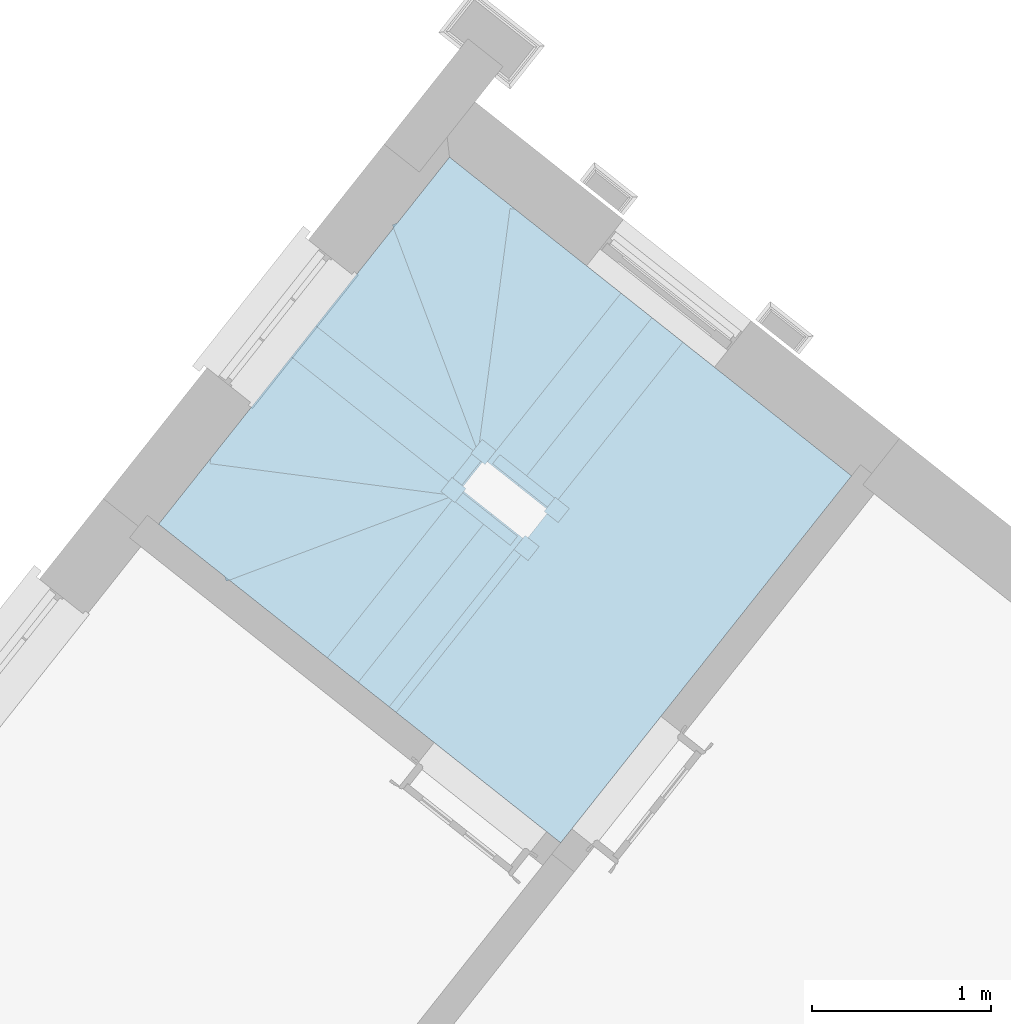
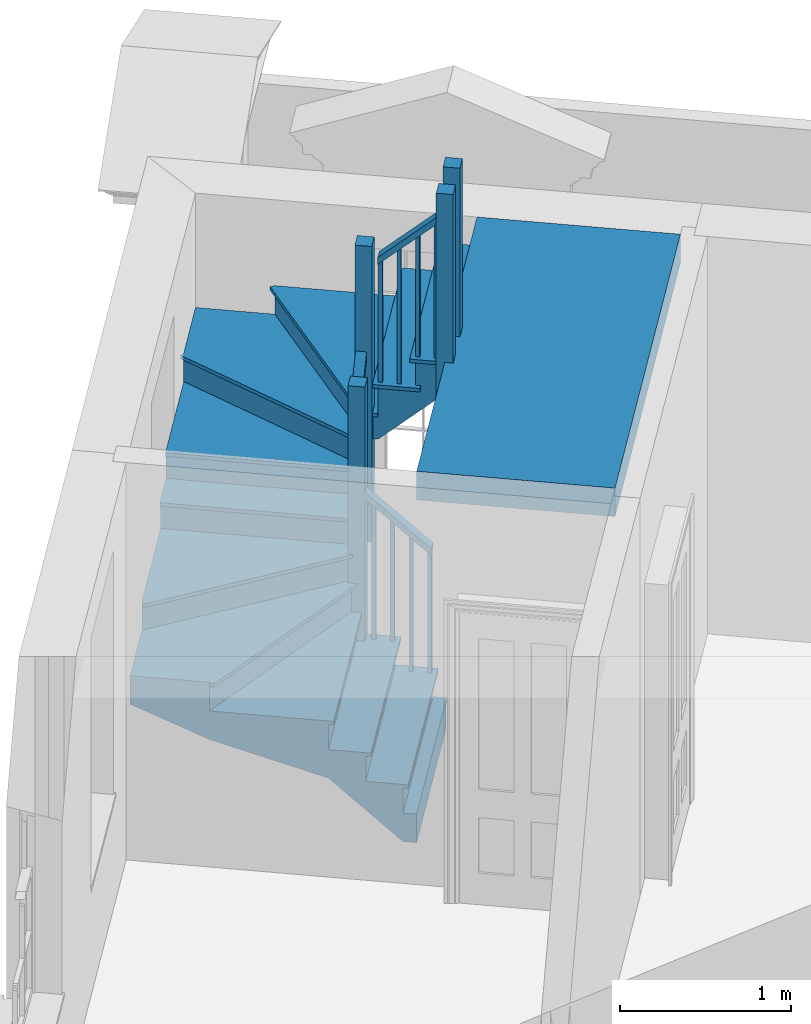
# One storey, part 8 of 8: 1 stair.
"""IFC4 building model written with IfcOpenShell, lengths in metres."""

from ifc_helpers import new_model, si_unit, frame, origin, origin_with_axes, place, context, subcontext, project, spatial, faceted_brep, element, save


model = new_model("IFC4")

# Units and contexts
model_context = context("Model", 3, world=origin_with_axes())
body_context = subcontext(model_context, "Body", "Model", "MODEL_VIEW")
ifc_project = project(units=[si_unit("PLANEANGLEUNIT", "RADIAN"), si_unit("MASSUNIT", "GRAM", prefix="KILO"), si_unit("FORCEUNIT", "NEWTON", prefix="KILO"), si_unit("LENGTHUNIT", "METRE"), si_unit("AREAUNIT", "SQUARE_METRE"), si_unit("VOLUMEUNIT", "CUBIC_METRE")], contexts=[model_context, model_context])

# Sites, building, storey
site_1_placement = place(None, origin_with_axes())
site_1 = spatial("IfcSite", under=ifc_project, at=site_1_placement, Name="Tamar")
site_2_placement = place(site_1_placement, origin_with_axes())
site_2 = spatial("IfcSite", under=site_1, at=site_2_placement, Name="Site plot-5", CompositionType="ELEMENT")
building_placement = place(None, origin_with_axes())
building = spatial("IfcBuilding", under=site_2, at=building_placement, Name="Building plot-5", CompositionType="ELEMENT")
storey_placement = place(None, frame((0.0, 0.0, 24.0), z_axis=(0.0, 0.0, 1.0), x_axis=(1.0, 0.0, 0.0)))
storey = spatial("IfcBuildingStorey", under=building, at=storey_placement, Name="plot-5 0", CompositionType="ELEMENT", Elevation=24.0)

# Stair
stair_placement = place(None, origin())
element("IfcStair", 1, at=stair_placement, inside=storey, Name="Stair", PredefinedType="NOTDEFINED", context=body_context, shape_type="Brep", body=[
    faceted_brep([(230.127307, 275.473376, 26.646429), (230.854102, 276.390256, 26.646429), (230.681697, 276.526919, 26.646429), (229.954902, 275.610039, 26.646429), (229.954902, 275.610039, 26.239286), (230.681697, 276.526919, 26.239286), (230.854102, 276.390256, 26.442857), (230.127307, 275.473376, 26.442857)], [[[0, 1, 2, 3]], [[4, 5, 6, 7]], [[7, 6, 1, 0]], [[1, 6, 5, 2]], [[5, 4, 3, 2]], [[3, 4, 7, 0]]]),
    faceted_brep([(230.658187, 276.545555, 26.621429), (230.658187, 276.545555, 26.646429), (230.681697, 276.526919, 26.621429), (230.877612, 276.371621, 26.646429), (230.877612, 276.371621, 26.621429), (230.854102, 276.390256, 26.621429), (230.681697, 276.526919, 26.646429), (230.854102, 276.390256, 26.646429), (229.912757, 275.605165, 26.646429), (229.954902, 275.610039, 26.646429), (229.954902, 275.610039, 26.621429), (229.912757, 275.605165, 26.621429), (230.132181, 275.431231, 26.646429), (230.127307, 275.473376, 26.646429), (230.127307, 275.473376, 26.621429), (230.132181, 275.431231, 26.621429)], [[[0, 1, 2]], [[3, 4, 5]], [[2, 1, 6]], [[3, 5, 7]], [[6, 1, 8, 9]], [[2, 6, 9, 10]], [[0, 2, 10, 11]], [[1, 0, 11, 8]], [[9, 8, 12, 13]], [[10, 9, 13, 14]], [[11, 10, 14, 15]], [[8, 11, 15, 12]], [[13, 12, 3, 7]], [[14, 13, 7, 5]], [[15, 14, 5, 4]], [[12, 15, 4, 3]]]),
    faceted_brep([(229.954902, 275.610039, 27.546429), (229.974494, 275.594509, 27.546429), (229.990023, 275.6141, 27.546429), (229.970432, 275.62963, 27.546429), (229.970432, 275.62963, 26.646429), (229.990023, 275.6141, 26.646429), (229.974494, 275.594509, 26.646429), (229.954902, 275.610039, 26.646429)], [[[0, 1, 2, 3]], [[4, 5, 6, 7]], [[7, 6, 1, 0]], [[6, 5, 2, 1]], [[5, 4, 3, 2]], [[4, 7, 0, 3]]]),
    faceted_brep([(230.041105, 275.541708, 27.648214), (230.060696, 275.526178, 27.648214), (230.076226, 275.545769, 27.648214), (230.056634, 275.561299, 27.648214), (230.056634, 275.561299, 26.646429), (230.076226, 275.545769, 26.646429), (230.060696, 275.526178, 26.646429), (230.041105, 275.541708, 26.646429)], [[[0, 1, 2, 3]], [[4, 5, 6, 7]], [[7, 6, 1, 0]], [[6, 5, 2, 1]], [[5, 4, 3, 2]], [[4, 7, 0, 3]]]),
    faceted_brep([(229.982856, 275.645303, 27.496429), (229.942478, 275.594366, 27.496429), (229.942478, 275.594366, 27.546429), (229.982856, 275.645303, 27.546429), (230.114883, 275.457703, 27.7), (230.155261, 275.508641, 27.7), (230.155261, 275.508641, 27.75), (230.114883, 275.457703, 27.75)], [[[0, 1, 2, 3]], [[4, 5, 6, 7]], [[0, 5, 4, 1]], [[3, 2, 7, 6]], [[0, 3, 6, 5]], [[2, 1, 4, 7]]]),
    faceted_brep([(229.954902, 275.610039, 26.442857), (230.681697, 276.526919, 26.442857), (230.509292, 276.663581, 26.442857), (229.782497, 275.746701, 26.442857), (229.782497, 275.746701, 26.035714), (230.509292, 276.663581, 26.035714), (230.681697, 276.526919, 26.239286), (229.954902, 275.610039, 26.239286)], [[[0, 1, 2, 3]], [[4, 5, 6, 7]], [[7, 6, 1, 0]], [[1, 6, 5, 2]], [[5, 4, 3, 2]], [[3, 4, 7, 0]]]),
    faceted_brep([(230.485783, 276.682217, 26.417857), (230.485783, 276.682217, 26.442857), (230.509292, 276.663581, 26.417857), (230.705207, 276.508283, 26.442857), (230.705207, 276.508283, 26.417857), (230.681697, 276.526919, 26.417857), (230.509292, 276.663581, 26.442857), (230.681697, 276.526919, 26.442857), (229.740352, 275.741827, 26.442857), (229.782497, 275.746701, 26.442857), (229.782497, 275.746701, 26.417857), (229.740352, 275.741827, 26.417857), (229.959776, 275.567893, 26.442857), (229.954902, 275.610039, 26.442857), (229.954902, 275.610039, 26.417857), (229.959776, 275.567893, 26.417857)], [[[0, 1, 2]], [[3, 4, 5]], [[2, 1, 6]], [[3, 5, 7]], [[6, 1, 8, 9]], [[2, 6, 9, 10]], [[0, 2, 10, 11]], [[1, 0, 11, 8]], [[9, 8, 12, 13]], [[10, 9, 13, 14]], [[11, 10, 14, 15]], [[8, 11, 15, 12]], [[13, 12, 3, 7]], [[14, 13, 7, 5]], [[15, 14, 5, 4]], [[12, 15, 4, 3]]]),
    faceted_brep([(229.782497, 275.746701, 27.342857), (229.802089, 275.731171, 27.342857), (229.817619, 275.750763, 27.342857), (229.798027, 275.766293, 27.342857), (229.798027, 275.766293, 26.442857), (229.817619, 275.750763, 26.442857), (229.802089, 275.731171, 26.442857), (229.782497, 275.746701, 26.442857)], [[[0, 1, 2, 3]], [[4, 5, 6, 7]], [[7, 6, 1, 0]], [[6, 5, 2, 1]], [[5, 4, 3, 2]], [[4, 7, 0, 3]]]),
    faceted_brep([(229.8687, 275.67837, 27.444643), (229.888291, 275.66284, 27.444643), (229.903821, 275.682432, 27.444643), (229.88423, 275.697961, 27.444643), (229.88423, 275.697961, 26.442857), (229.903821, 275.682432, 26.442857), (229.888291, 275.66284, 26.442857), (229.8687, 275.67837, 26.442857)], [[[0, 1, 2, 3]], [[4, 5, 6, 7]], [[7, 6, 1, 0]], [[6, 5, 2, 1]], [[5, 4, 3, 2]], [[4, 7, 0, 3]]]),
    faceted_brep([(229.810451, 275.781966, 27.292857), (229.770074, 275.731028, 27.292857), (229.770074, 275.731028, 27.342857), (229.810451, 275.781966, 27.342857), (229.942478, 275.594366, 27.496429), (229.982856, 275.645303, 27.496429), (229.982856, 275.645303, 27.546429), (229.942478, 275.594366, 27.546429)], [[[0, 1, 2, 3]], [[4, 5, 6, 7]], [[0, 5, 4, 1]], [[3, 2, 7, 6]], [[0, 3, 6, 5]], [[2, 1, 4, 7]]]),
    faceted_brep([(229.782497, 275.746701, 26.239286), (230.509292, 276.663581, 26.239286), (230.446352, 276.713473, 26.239286), (229.719557, 275.796593, 26.239286), (229.719557, 275.796593, 26.035714), (230.446352, 276.713473, 26.035714), (230.509292, 276.663581, 26.035714), (229.782497, 275.746701, 26.035714)], [[[0, 1, 2, 3]], [[4, 5, 6, 7]], [[7, 6, 1, 0]], [[6, 5, 2, 1]], [[5, 4, 3, 2]], [[4, 7, 0, 3]]]),
    faceted_brep([(229.700921, 275.773083, 26.214286), (229.700921, 275.773083, 26.239286), (229.719557, 275.796593, 26.214286), (229.763862, 275.723191, 26.239286), (229.763862, 275.723191, 26.214286), (229.782497, 275.746701, 26.214286), (229.719557, 275.796593, 26.239286), (229.782497, 275.746701, 26.239286)], [[[0, 1, 2]], [[3, 4, 5]], [[2, 1, 6]], [[3, 5, 7]], [[6, 1, 3, 7]], [[2, 6, 7, 5]], [[0, 2, 5, 4]], [[1, 0, 4, 3]]]),
    faceted_brep([(229.649314, 275.78847, 27.439286), (229.72768, 275.726351, 27.439286), (229.789799, 275.804716, 27.439286), (229.711433, 275.866836, 27.439286), (229.711433, 275.866836, 26.239286), (229.789799, 275.804716, 26.239286), (229.72768, 275.726351, 26.239286), (229.649314, 275.78847, 26.239286)], [[[0, 1, 2, 3]], [[4, 5, 6, 7]], [[7, 6, 1, 0]], [[6, 5, 2, 1]], [[5, 4, 3, 2]], [[4, 7, 0, 3]]]),
    faceted_brep([(230.446352, 276.713473, 26.239286), (229.896224, 277.14955, 26.239286), (229.719557, 275.796593, 26.239286), (229.719557, 275.796593, 25.832143), (229.896224, 277.14955, 25.832143), (230.446352, 276.713473, 26.035714)], [[[0, 1, 2]], [[3, 4, 5]], [[0, 5, 4, 1]], [[4, 3, 2, 1]], [[2, 3, 5, 0]]]),
    faceted_brep([(229.896224, 277.14955, 26.214286), (229.866476, 277.153435, 26.214286), (229.896224, 277.14955, 26.239286), (229.689809, 275.800478, 26.214286), (229.719557, 275.796593, 26.214286), (229.719557, 275.796593, 26.239286), (229.866476, 277.153435, 26.239286), (229.689809, 275.800478, 26.239286)], [[[0, 1, 2]], [[3, 4, 5]], [[1, 6, 2]], [[7, 3, 5]], [[2, 6, 7, 5]], [[0, 2, 5, 4]], [[1, 0, 4, 3]], [[6, 1, 3, 7]]]),
    faceted_brep([(229.896224, 277.14955, 26.035714), (229.529472, 277.440268, 26.035714), (229.238754, 277.073516, 26.035714), (229.719557, 275.796593, 26.035714), (229.719557, 275.796593, 25.628571), (229.238754, 277.073516, 25.628571), (229.529472, 277.440268, 25.832143), (229.896224, 277.14955, 25.832143)], [[[0, 1, 2, 3]], [[4, 5, 6, 7]], [[7, 6, 1, 0]], [[1, 6, 5, 2]], [[5, 4, 3, 2]], [[3, 4, 7, 0]]]),
    faceted_brep([(229.238754, 277.073516, 26.010714), (229.210678, 277.062945, 26.010714), (229.238754, 277.073516, 26.035714), (229.691481, 275.786022, 26.010714), (229.719557, 275.796593, 26.010714), (229.719557, 275.796593, 26.035714), (229.210678, 277.062945, 26.035714), (229.691481, 275.786022, 26.035714)], [[[0, 1, 2]], [[3, 4, 5]], [[1, 6, 2]], [[7, 3, 5]], [[2, 6, 7, 5]], [[0, 2, 5, 4]], [[1, 0, 4, 3]], [[6, 1, 3, 7]]]),
    faceted_brep([(229.238754, 277.073516, 25.832143), (228.802677, 276.523388, 25.832143), (229.719557, 275.796593, 25.832143), (229.719557, 275.796593, 25.425), (228.802677, 276.523388, 25.425), (229.238754, 277.073516, 25.628571)], [[[0, 1, 2]], [[3, 4, 5]], [[0, 5, 4, 1]], [[4, 3, 2, 1]], [[2, 3, 5, 0]]]),
    faceted_brep([(228.802677, 276.523388, 25.807143), (228.784041, 276.499879, 25.807143), (228.802677, 276.523388, 25.832143), (229.700921, 275.773083, 25.807143), (229.719557, 275.796593, 25.807143), (229.719557, 275.796593, 25.832143), (228.784041, 276.499879, 25.832143), (229.700921, 275.773083, 25.832143)], [[[0, 1, 2]], [[3, 4, 5]], [[1, 6, 2]], [[7, 3, 5]], [[2, 6, 7, 5]], [[0, 2, 5, 4]], [[1, 0, 4, 3]], [[6, 1, 3, 7]]]),
    faceted_brep([(229.649314, 275.78847, 26.239286), (229.72768, 275.726351, 26.239286), (229.789799, 275.804716, 26.239286), (229.711433, 275.866836, 26.239286), (229.711433, 275.866836, 25.332143), (229.789799, 275.804716, 25.332143), (229.72768, 275.726351, 25.332143), (229.649314, 275.78847, 25.332143)], [[[0, 1, 2, 3]], [[4, 5, 6, 7]], [[7, 6, 1, 0]], [[6, 5, 2, 1]], [[5, 4, 3, 2]], [[4, 7, 0, 3]]]),
    faceted_brep([(229.719557, 275.796593, 25.628571), (228.802677, 276.523388, 25.628571), (228.666014, 276.350983, 25.628571), (229.582894, 275.624188, 25.628571), (229.582894, 275.624188, 25.221429), (228.666014, 276.350983, 25.221429), (228.802677, 276.523388, 25.425), (229.719557, 275.796593, 25.425)], [[[0, 1, 2, 3]], [[4, 5, 6, 7]], [[7, 6, 1, 0]], [[1, 6, 5, 2]], [[5, 4, 3, 2]], [[3, 4, 7, 0]]]),
    faceted_brep([(228.647379, 276.327474, 25.603571), (228.647379, 276.327474, 25.628571), (228.666014, 276.350983, 25.603571), (228.821312, 276.546898, 25.628571), (228.821312, 276.546898, 25.603571), (228.802677, 276.523388, 25.603571), (228.666014, 276.350983, 25.628571), (228.802677, 276.523388, 25.628571), (229.587768, 275.582043, 25.628571), (229.582894, 275.624188, 25.628571), (229.582894, 275.624188, 25.603571), (229.587768, 275.582043, 25.603571), (229.761702, 275.801467, 25.628571), (229.719557, 275.796593, 25.628571), (229.719557, 275.796593, 25.603571), (229.761702, 275.801467, 25.603571)], [[[0, 1, 2]], [[3, 4, 5]], [[2, 1, 6]], [[3, 5, 7]], [[6, 1, 8, 9]], [[2, 6, 9, 10]], [[0, 2, 10, 11]], [[1, 0, 11, 8]], [[9, 8, 12, 13]], [[10, 9, 13, 14]], [[11, 10, 14, 15]], [[8, 11, 15, 12]], [[13, 12, 3, 7]], [[14, 13, 7, 5]], [[15, 14, 5, 4]], [[12, 15, 4, 3]]]),
    faceted_brep([(229.582894, 275.624188, 26.528571), (229.598424, 275.64378, 26.528571), (229.578833, 275.65931, 26.528571), (229.563303, 275.639718, 26.528571), (229.563303, 275.639718, 25.628571), (229.578833, 275.65931, 25.628571), (229.598424, 275.64378, 25.628571), (229.582894, 275.624188, 25.628571)], [[[0, 1, 2, 3]], [[4, 5, 6, 7]], [[7, 6, 1, 0]], [[6, 5, 2, 1]], [[5, 4, 3, 2]], [[4, 7, 0, 3]]]),
    faceted_brep([(229.651225, 275.710391, 26.630357), (229.666755, 275.729982, 26.630357), (229.647164, 275.745512, 26.630357), (229.631634, 275.725921, 26.630357), (229.631634, 275.725921, 25.628571), (229.647164, 275.745512, 25.628571), (229.666755, 275.729982, 25.628571), (229.651225, 275.710391, 25.628571)], [[[0, 1, 2, 3]], [[4, 5, 6, 7]], [[7, 6, 1, 0]], [[6, 5, 2, 1]], [[5, 4, 3, 2]], [[4, 7, 0, 3]]]),
    faceted_brep([(229.54763, 275.652142, 26.478571), (229.598567, 275.611765, 26.478571), (229.598567, 275.611765, 26.528571), (229.54763, 275.652142, 26.528571), (229.73523, 275.784169, 26.682143), (229.684292, 275.824547, 26.682143), (229.684292, 275.824547, 26.732143), (229.73523, 275.784169, 26.732143)], [[[0, 1, 2, 3]], [[4, 5, 6, 7]], [[0, 5, 4, 1]], [[3, 2, 7, 6]], [[0, 3, 6, 5]], [[2, 1, 4, 7]]]),
    faceted_brep([(229.582894, 275.624188, 25.425), (228.666014, 276.350983, 25.425), (228.634527, 276.311262, 25.425), (229.551407, 275.584467, 25.425), (229.551407, 275.584467, 25.221429), (228.634527, 276.311262, 25.221429), (228.666014, 276.350983, 25.221429), (229.582894, 275.624188, 25.221429)], [[[0, 1, 2, 3]], [[4, 5, 6, 7]], [[7, 6, 1, 0]], [[6, 5, 2, 1]], [[5, 4, 3, 2]], [[4, 7, 0, 3]]]),
    faceted_brep([(229.551407, 275.584467, 25.4), (229.574917, 275.565831, 25.4), (229.551407, 275.584467, 25.425), (229.606404, 275.605553, 25.4), (229.582894, 275.624188, 25.4), (229.582894, 275.624188, 25.425), (229.574917, 275.565831, 25.425), (229.606404, 275.605553, 25.425)], [[[0, 1, 2]], [[3, 4, 5]], [[1, 6, 2]], [[7, 3, 5]], [[2, 6, 7, 5]], [[0, 2, 5, 4]], [[1, 0, 4, 3]], [[6, 1, 3, 7]]]),
    faceted_brep([(229.559531, 275.514224, 26.625), (229.62165, 275.59259, 26.625), (229.543284, 275.654709, 26.625), (229.481165, 275.576343, 26.625), (229.481165, 275.576343, 25.425), (229.543284, 275.654709, 25.425), (229.62165, 275.59259, 25.425), (229.559531, 275.514224, 25.425)], [[[0, 1, 2, 3]], [[4, 5, 6, 7]], [[7, 6, 1, 0]], [[6, 5, 2, 1]], [[5, 4, 3, 2]], [[4, 7, 0, 3]]]),
    faceted_brep([(228.634527, 276.311262, 25.425), (228.19845, 275.761134, 25.425), (229.551407, 275.584467, 25.425), (229.551407, 275.584467, 25.017857), (228.19845, 275.761134, 25.017857), (228.634527, 276.311262, 25.221429)], [[[0, 1, 2]], [[3, 4, 5]], [[0, 5, 4, 1]], [[4, 3, 2, 1]], [[2, 3, 5, 0]]]),
    faceted_brep([(228.19845, 275.761134, 25.4), (228.194566, 275.731386, 25.4), (228.19845, 275.761134, 25.425), (229.547523, 275.554719, 25.4), (229.551407, 275.584467, 25.4), (229.551407, 275.584467, 25.425), (228.194566, 275.731386, 25.425), (229.547523, 275.554719, 25.425)], [[[0, 1, 2]], [[3, 4, 5]], [[1, 6, 2]], [[7, 3, 5]], [[2, 6, 7, 5]], [[0, 2, 5, 4]], [[1, 0, 4, 3]], [[6, 1, 3, 7]]]),
    faceted_brep([(228.19845, 275.761134, 25.221429), (227.907732, 275.394382, 25.221429), (228.274484, 275.103664, 25.221429), (229.551407, 275.584467, 25.221429), (229.551407, 275.584467, 24.814286), (228.274484, 275.103664, 24.814286), (227.907732, 275.394382, 25.017857), (228.19845, 275.761134, 25.017857)], [[[0, 1, 2, 3]], [[4, 5, 6, 7]], [[7, 6, 1, 0]], [[1, 6, 5, 2]], [[5, 4, 3, 2]], [[3, 4, 7, 0]]]),
    faceted_brep([(228.285056, 275.075588, 25.196429), (228.285056, 275.075588, 25.221429), (228.274484, 275.103664, 25.196429), (229.561979, 275.556391, 25.221429), (229.561979, 275.556391, 25.196429), (229.551407, 275.584467, 25.196429), (228.274484, 275.103664, 25.221429), (229.551407, 275.584467, 25.221429)], [[[0, 1, 2]], [[3, 4, 5]], [[2, 1, 6]], [[3, 5, 7]], [[6, 1, 3, 7]], [[2, 6, 7, 5]], [[0, 2, 5, 4]], [[1, 0, 4, 3]]]),
    faceted_brep([(228.274484, 275.103664, 25.017857), (228.824612, 274.667587, 25.017857), (229.551407, 275.584467, 25.017857), (229.551407, 275.584467, 24.610714), (228.824612, 274.667587, 24.610714), (228.274484, 275.103664, 24.814286)], [[[0, 1, 2]], [[3, 4, 5]], [[0, 5, 4, 1]], [[4, 3, 2, 1]], [[2, 3, 5, 0]]]),
    faceted_brep([(228.824612, 274.667587, 24.992857), (228.848122, 274.648951, 24.992857), (228.824612, 274.667587, 25.017857), (229.574917, 275.565831, 24.992857), (229.551407, 275.584467, 24.992857), (229.551407, 275.584467, 25.017857), (228.848122, 274.648951, 25.017857), (229.574917, 275.565831, 25.017857)], [[[0, 1, 2]], [[3, 4, 5]], [[1, 6, 2]], [[7, 3, 5]], [[2, 6, 7, 5]], [[0, 2, 5, 4]], [[1, 0, 4, 3]], [[6, 1, 3, 7]]]),
    faceted_brep([(229.559531, 275.514224, 25.425), (229.62165, 275.59259, 25.425), (229.543284, 275.654709, 25.425), (229.481165, 275.576343, 25.425), (229.481165, 275.576343, 24.517857), (229.543284, 275.654709, 24.517857), (229.62165, 275.59259, 24.517857), (229.559531, 275.514224, 24.517857)], [[[0, 1, 2, 3]], [[4, 5, 6, 7]], [[7, 6, 1, 0]], [[6, 5, 2, 1]], [[5, 4, 3, 2]], [[4, 7, 0, 3]]]),
    faceted_brep([(229.551407, 275.584467, 24.814286), (228.824612, 274.667587, 24.814286), (228.997017, 274.530924, 24.814286), (229.723812, 275.447804, 24.814286), (229.723812, 275.447804, 24.407143), (228.997017, 274.530924, 24.407143), (228.824612, 274.667587, 24.610714), (229.551407, 275.584467, 24.610714)], [[[0, 1, 2, 3]], [[4, 5, 6, 7]], [[7, 6, 1, 0]], [[1, 6, 5, 2]], [[5, 4, 3, 2]], [[3, 4, 7, 0]]]),
    faceted_brep([(229.020527, 274.512288, 24.789286), (229.020527, 274.512288, 24.814286), (228.997017, 274.530924, 24.789286), (228.801103, 274.686222, 24.814286), (228.801103, 274.686222, 24.789286), (228.824612, 274.667587, 24.789286), (228.997017, 274.530924, 24.814286), (228.824612, 274.667587, 24.814286), (229.765958, 275.452678, 24.814286), (229.723812, 275.447804, 24.814286), (229.723812, 275.447804, 24.789286), (229.765958, 275.452678, 24.789286), (229.546533, 275.626612, 24.814286), (229.551407, 275.584467, 24.814286), (229.551407, 275.584467, 24.789286), (229.546533, 275.626612, 24.789286)], [[[0, 1, 2]], [[3, 4, 5]], [[2, 1, 6]], [[3, 5, 7]], [[6, 1, 8, 9]], [[2, 6, 9, 10]], [[0, 2, 10, 11]], [[1, 0, 11, 8]], [[9, 8, 12, 13]], [[10, 9, 13, 14]], [[11, 10, 14, 15]], [[8, 11, 15, 12]], [[13, 12, 3, 7]], [[14, 13, 7, 5]], [[15, 14, 5, 4]], [[12, 15, 4, 3]]]),
    faceted_brep([(229.723812, 275.447804, 25.714286), (229.704221, 275.463334, 25.714286), (229.688691, 275.443743, 25.714286), (229.708282, 275.428213, 25.714286), (229.708282, 275.428213, 24.814286), (229.688691, 275.443743, 24.814286), (229.704221, 275.463334, 24.814286), (229.723812, 275.447804, 24.814286)], [[[0, 1, 2, 3]], [[4, 5, 6, 7]], [[7, 6, 1, 0]], [[6, 5, 2, 1]], [[5, 4, 3, 2]], [[4, 7, 0, 3]]]),
    faceted_brep([(229.63761, 275.516135, 25.816071), (229.618018, 275.531665, 25.816071), (229.602489, 275.512074, 25.816071), (229.62208, 275.496544, 25.816071), (229.62208, 275.496544, 24.814286), (229.602489, 275.512074, 24.814286), (229.618018, 275.531665, 24.814286), (229.63761, 275.516135, 24.814286)], [[[0, 1, 2, 3]], [[4, 5, 6, 7]], [[7, 6, 1, 0]], [[6, 5, 2, 1]], [[5, 4, 3, 2]], [[4, 7, 0, 3]]]),
    faceted_brep([(229.695859, 275.41254, 25.664286), (229.736236, 275.463477, 25.664286), (229.736236, 275.463477, 25.714286), (229.695859, 275.41254, 25.714286), (229.563831, 275.60014, 25.867857), (229.523454, 275.549202, 25.867857), (229.523454, 275.549202, 25.917857), (229.563831, 275.60014, 25.917857)], [[[0, 1, 2, 3]], [[4, 5, 6, 7]], [[0, 5, 4, 1]], [[3, 2, 7, 6]], [[0, 3, 6, 5]], [[2, 1, 4, 7]]]),
    faceted_brep([(229.723812, 275.447804, 24.610714), (228.997017, 274.530924, 24.610714), (229.169422, 274.394262, 24.610714), (229.896217, 275.311142, 24.610714), (229.896217, 275.311142, 24.203571), (229.169422, 274.394262, 24.203571), (228.997017, 274.530924, 24.407143), (229.723812, 275.447804, 24.407143)], [[[0, 1, 2, 3]], [[4, 5, 6, 7]], [[7, 6, 1, 0]], [[1, 6, 5, 2]], [[5, 4, 3, 2]], [[3, 4, 7, 0]]]),
    faceted_brep([(229.192932, 274.375626, 24.585714), (229.192932, 274.375626, 24.610714), (229.169422, 274.394262, 24.585714), (228.973507, 274.54956, 24.610714), (228.973507, 274.54956, 24.585714), (228.997017, 274.530924, 24.585714), (229.169422, 274.394262, 24.610714), (228.997017, 274.530924, 24.610714), (229.938363, 275.316016, 24.610714), (229.896217, 275.311142, 24.610714), (229.896217, 275.311142, 24.585714), (229.938363, 275.316016, 24.585714), (229.718938, 275.48995, 24.610714), (229.723812, 275.447804, 24.610714), (229.723812, 275.447804, 24.585714), (229.718938, 275.48995, 24.585714)], [[[0, 1, 2]], [[3, 4, 5]], [[2, 1, 6]], [[3, 5, 7]], [[6, 1, 8, 9]], [[2, 6, 9, 10]], [[0, 2, 10, 11]], [[1, 0, 11, 8]], [[9, 8, 12, 13]], [[10, 9, 13, 14]], [[11, 10, 14, 15]], [[8, 11, 15, 12]], [[13, 12, 3, 7]], [[14, 13, 7, 5]], [[15, 14, 5, 4]], [[12, 15, 4, 3]]]),
    faceted_brep([(229.896217, 275.311142, 25.510714), (229.876626, 275.326672, 25.510714), (229.861096, 275.30708, 25.510714), (229.880687, 275.29155, 25.510714), (229.880687, 275.29155, 24.610714), (229.861096, 275.30708, 24.610714), (229.876626, 275.326672, 24.610714), (229.896217, 275.311142, 24.610714)], [[[0, 1, 2, 3]], [[4, 5, 6, 7]], [[7, 6, 1, 0]], [[6, 5, 2, 1]], [[5, 4, 3, 2]], [[4, 7, 0, 3]]]),
    faceted_brep([(229.810015, 275.379473, 25.6125), (229.790423, 275.395003, 25.6125), (229.774893, 275.375411, 25.6125), (229.794485, 275.359882, 25.6125), (229.794485, 275.359882, 24.610714), (229.774893, 275.375411, 24.610714), (229.790423, 275.395003, 24.610714), (229.810015, 275.379473, 24.610714)], [[[0, 1, 2, 3]], [[4, 5, 6, 7]], [[7, 6, 1, 0]], [[6, 5, 2, 1]], [[5, 4, 3, 2]], [[4, 7, 0, 3]]]),
    faceted_brep([(229.868263, 275.275877, 25.460714), (229.908641, 275.326815, 25.460714), (229.908641, 275.326815, 25.510714), (229.868263, 275.275877, 25.510714), (229.736236, 275.463477, 25.664286), (229.695859, 275.41254, 25.664286), (229.695859, 275.41254, 25.714286), (229.736236, 275.463477, 25.714286)], [[[0, 1, 2, 3]], [[4, 5, 6, 7]], [[0, 5, 4, 1]], [[3, 2, 7, 6]], [[0, 3, 6, 5]], [[2, 1, 4, 7]]]),
    faceted_brep([(229.896217, 275.311142, 24.407143), (229.169422, 274.394262, 24.407143), (229.232363, 274.34437, 24.407143), (229.959158, 275.26125, 24.407143), (229.959158, 275.26125, 24.203571), (229.232363, 274.34437, 24.203571), (229.169422, 274.394262, 24.203571), (229.896217, 275.311142, 24.203571)], [[[0, 1, 2, 3]], [[4, 5, 6, 7]], [[7, 6, 1, 0]], [[6, 5, 2, 1]], [[5, 4, 3, 2]], [[4, 7, 0, 3]]]),
    faceted_brep([(229.977794, 275.28476, 24.382143), (229.977794, 275.28476, 24.407143), (229.959158, 275.26125, 24.382143), (229.914853, 275.334652, 24.407143), (229.914853, 275.334652, 24.382143), (229.896217, 275.311142, 24.382143), (229.959158, 275.26125, 24.407143), (229.896217, 275.311142, 24.407143)], [[[0, 1, 2]], [[3, 4, 5]], [[2, 1, 6]], [[3, 5, 7]], [[6, 1, 3, 7]], [[2, 6, 7, 5]], [[0, 2, 5, 4]], [[1, 0, 4, 3]]]),
    faceted_brep([(230.0294, 275.269373, 28.05), (229.951034, 275.331492, 28.05), (229.888915, 275.253127, 28.05), (229.967281, 275.191007, 28.05), (229.967281, 275.191007, 26.85), (229.888915, 275.253127, 26.85), (229.951034, 275.331492, 26.85), (230.0294, 275.269373, 26.85)], [[[0, 1, 2, 3]], [[4, 5, 6, 7]], [[7, 6, 1, 0]], [[6, 5, 2, 1]], [[5, 4, 3, 2]], [[4, 7, 0, 3]]]),
    faceted_brep([(229.959158, 275.26125, 26.85), (229.232363, 274.34437, 26.85), (230.149243, 273.617575, 26.85), (230.876038, 274.534455, 26.85), (230.876038, 274.534455, 26.646429), (230.149243, 273.617575, 26.646429), (229.232363, 274.34437, 26.646429), (229.959158, 275.26125, 26.646429)], [[[0, 1, 2, 3]], [[4, 5, 6, 7]], [[7, 6, 1, 0]], [[6, 5, 2, 1]], [[5, 4, 3, 2]], [[4, 7, 0, 3]]]),
    faceted_brep([(230.894674, 274.557964, 26.825), (230.894674, 274.557964, 26.85), (230.876038, 274.534455, 26.825), (229.977794, 275.28476, 26.85), (229.977794, 275.28476, 26.825), (229.959158, 275.26125, 26.825), (230.876038, 274.534455, 26.85), (229.959158, 275.26125, 26.85)], [[[0, 1, 2]], [[3, 4, 5]], [[2, 1, 6]], [[3, 5, 7]], [[6, 1, 3, 7]], [[2, 6, 7, 5]], [[0, 2, 5, 4]], [[1, 0, 4, 3]]]),
    faceted_brep([(230.0294, 275.269373, 26.85), (229.951034, 275.331492, 26.85), (229.888915, 275.253127, 26.85), (229.967281, 275.191007, 26.85), (229.967281, 275.191007, 26.35), (229.888915, 275.253127, 26.35), (229.951034, 275.331492, 26.35), (230.0294, 275.269373, 26.35)], [[[0, 1, 2, 3]], [[4, 5, 6, 7]], [[7, 6, 1, 0]], [[6, 5, 2, 1]], [[5, 4, 3, 2]], [[4, 7, 0, 3]]]),
    faceted_brep([(229.959158, 275.26125, 26.85), (230.876038, 274.534455, 26.85), (231.044187, 274.746581, 26.85), (230.127307, 275.473376, 26.85), (230.127307, 275.473376, 26.646429), (231.044187, 274.746581, 26.646429), (230.876038, 274.534455, 26.646429), (229.959158, 275.26125, 26.646429)], [[[0, 1, 2, 3]], [[4, 5, 6, 7]], [[7, 6, 1, 0]], [[6, 5, 2, 1]], [[5, 4, 3, 2]], [[4, 7, 0, 3]]]),
    faceted_brep([(230.103797, 275.492012, 26.825), (230.103797, 275.492012, 26.85), (230.127307, 275.473376, 26.825), (229.935648, 275.279886, 26.85), (229.935648, 275.279886, 26.825), (229.959158, 275.26125, 26.825), (230.127307, 275.473376, 26.85), (229.959158, 275.26125, 26.85)], [[[0, 1, 2]], [[3, 4, 5]], [[2, 1, 6]], [[3, 5, 7]], [[6, 1, 3, 7]], [[2, 6, 7, 5]], [[0, 2, 5, 4]], [[1, 0, 4, 3]]]),
    faceted_brep([(230.119184, 275.543619, 28.05), (230.057064, 275.465253, 28.05), (230.13543, 275.403134, 28.05), (230.197549, 275.4815, 28.05), (230.197549, 275.4815, 26.85), (230.13543, 275.403134, 26.85), (230.057064, 275.465253, 26.85), (230.119184, 275.543619, 26.85)], [[[0, 1, 2, 3]], [[4, 5, 6, 7]], [[7, 6, 1, 0]], [[6, 5, 2, 1]], [[5, 4, 3, 2]], [[4, 7, 0, 3]]]),
    faceted_brep([(230.127307, 275.473376, 26.85), (231.044187, 274.746581, 26.85), (231.770982, 275.663461, 26.85), (230.854102, 276.390256, 26.85), (230.854102, 276.390256, 26.646429), (231.770982, 275.663461, 26.646429), (231.044187, 274.746581, 26.646429), (230.127307, 275.473376, 26.646429)], [[[0, 1, 2, 3]], [[4, 5, 6, 7]], [[7, 6, 1, 0]], [[6, 5, 2, 1]], [[5, 4, 3, 2]], [[4, 7, 0, 3]]]),
    faceted_brep([(230.854102, 276.390256, 26.825), (230.830592, 276.408892, 26.825), (230.854102, 276.390256, 26.85), (230.103797, 275.492012, 26.825), (230.127307, 275.473376, 26.825), (230.127307, 275.473376, 26.85), (230.830592, 276.408892, 26.85), (230.103797, 275.492012, 26.85)], [[[0, 1, 2]], [[3, 4, 5]], [[1, 6, 2]], [[7, 3, 5]], [[2, 6, 7, 5]], [[0, 2, 5, 4]], [[1, 0, 4, 3]], [[6, 1, 3, 7]]]),
    faceted_brep([(230.119184, 275.543619, 26.85), (230.057064, 275.465253, 26.85), (230.13543, 275.403134, 26.85), (230.197549, 275.4815, 26.85), (230.197549, 275.4815, 26.35), (230.13543, 275.403134, 26.35), (230.057064, 275.465253, 26.35), (230.119184, 275.543619, 26.35)], [[[0, 1, 2, 3]], [[4, 5, 6, 7]], [[7, 6, 1, 0]], [[6, 5, 2, 1]], [[5, 4, 3, 2]], [[4, 7, 0, 3]]]),
])

save(model, "model.ifc")
